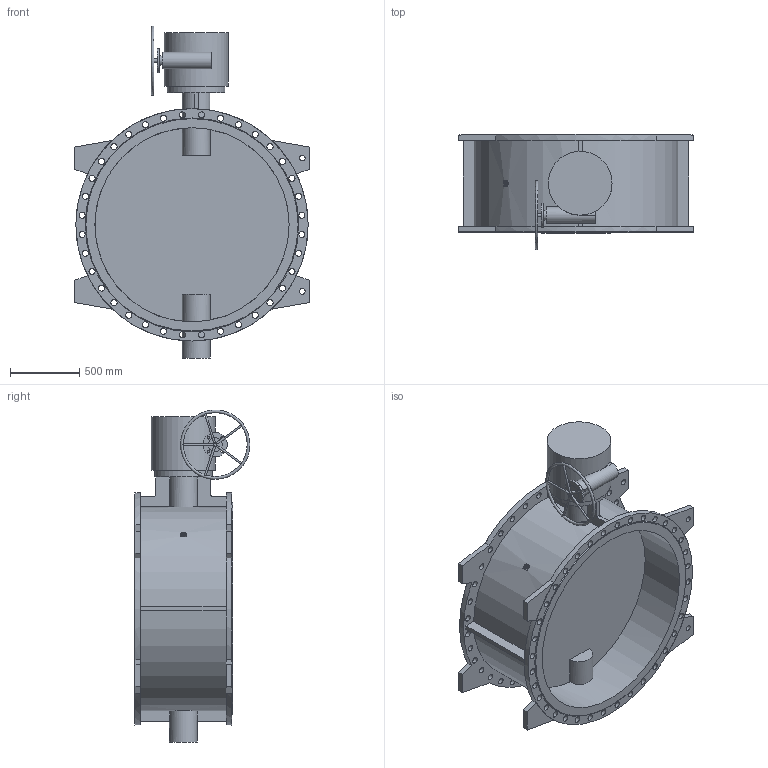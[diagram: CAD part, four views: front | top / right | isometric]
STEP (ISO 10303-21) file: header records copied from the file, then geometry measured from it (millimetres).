
FILE_DESCRIPTION(('STEP AP203'), '1');
FILE_NAME('Çàòâîð 023F.Z DN1400 PN10_ìàõ', '', ('UNSPECIFIED'), ('UNSPECIFIED'), 'ASCON STEP Converter 1.6', 'ASCON Math Kernel', '');
FILE_SCHEMA(('CONFIG_CONTROL_DESIGN'));
Length unit declared in the file: millimetre
Bounding box: 1690 x 834.98 x 2392.58 mm (x, y, z)
Volume: 422384640.2 mm3; surface area: 14060580.6 mm2
Topology: 1 solids, 1 shells, 232 faces, 597 edges, 397 vertices
Faces by surface type: cylinder 131, plane 98, cone 2, torus 1
Full cylindrical faces by diameter (mm): 14 x5, 18 x4, 24 x1, 27 x8, 33 x8, 40 x4, 44 x72, 70 x1, 100 x1, 120 x1, 175 x1, 200 x1, 415 x1, 460 x1, 1400 x2, 1675 x2
Entity records: 11464 total; most frequent: CARTESIAN_POINT 3876, DIRECTION 1173, ORIENTED_EDGE 952, EDGE_LOOP 547, AXIS2_PLACEMENT_3D 496, EDGE_CURVE 476, VERTEX_POINT 395, FACE_BOUND 323
